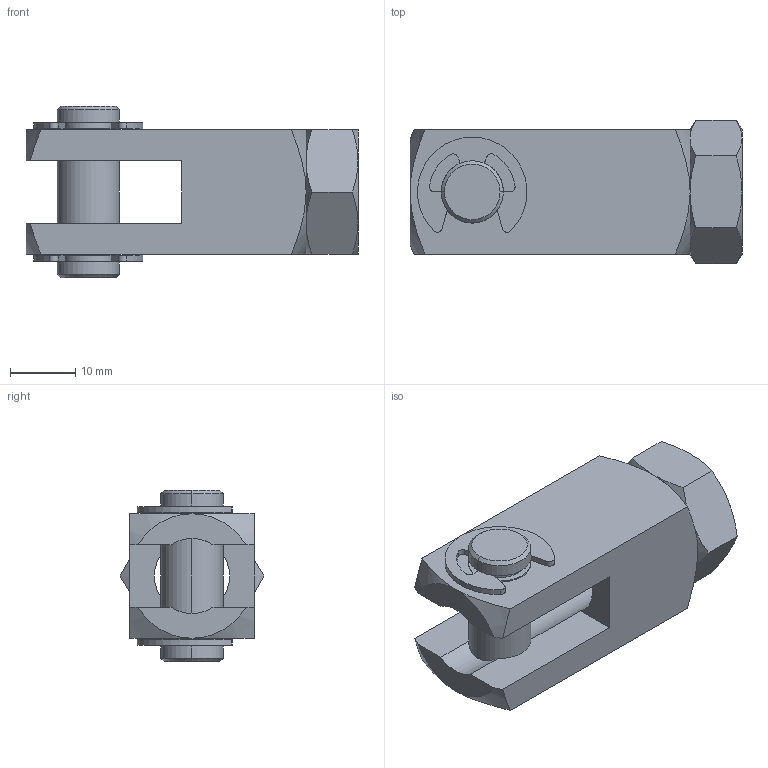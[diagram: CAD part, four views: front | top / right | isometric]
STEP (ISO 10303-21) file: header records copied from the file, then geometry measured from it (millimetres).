
FILE_DESCRIPTION((''),'2;1');
FILE_NAME('M127006','2020-01-06T19:10:11',('MeFernandez'),('ASCO Numatics'),'CREO PARAMETRIC BY PTC INC, 2018190','CREO PARAMETRIC BY PTC INC, 2018190','');
FILE_SCHEMA(('CONFIG_CONTROL_DESIGN'));
Length unit declared in the file: inch
Products named in the file (3): M127006_CLEVIS-PIN; M190004; M127006
Assembly tree (2 placements, depth 2):
  M127006
    M127006_CLEVIS-PIN
    M190004
Bounding box: 50.8 x 22 x 26.19 mm (x, y, z)
Volume: 11945 mm3; surface area: 7463.5 mm2
Topology: 3 solids, 3 shells, 115 faces, 306 edges, 188 vertices
Faces by surface type: plane 47, cylinder 38, cone 30
Entity records: 3914 total; most frequent: CARTESIAN_POINT 950, DIRECTION 616, ORIENTED_EDGE 612, EDGE_CURVE 306, AXIS2_PLACEMENT_3D 242, VERTEX_POINT 188, VECTOR 132, LINE 132
